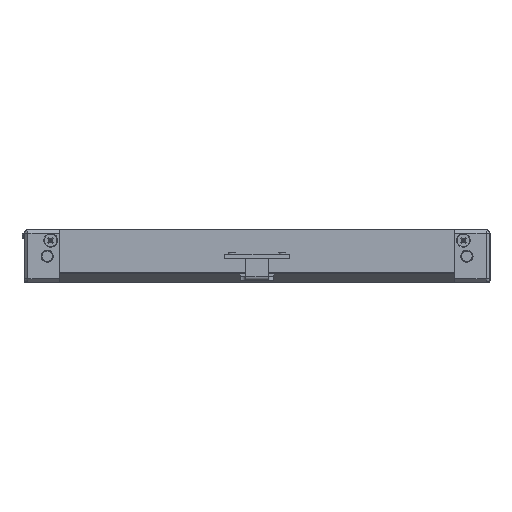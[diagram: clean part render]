
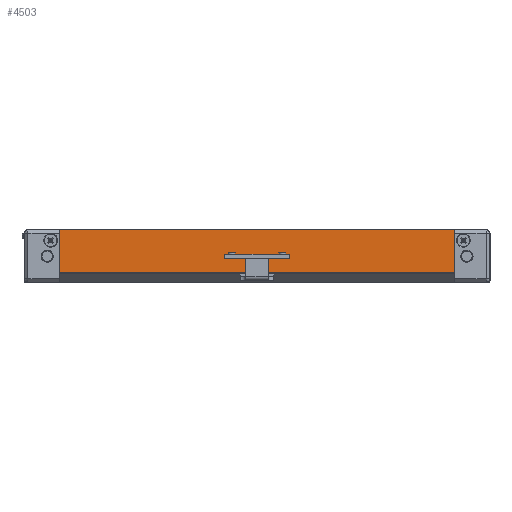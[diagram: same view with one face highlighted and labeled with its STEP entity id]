
A CAD part, top view. The second image highlights one B-rep face of the part: STEP entity #4503.
In plain terms, the highlighted planar face has unit normal (0, 0, 1).
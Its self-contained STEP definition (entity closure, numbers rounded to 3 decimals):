
#743 = PLANE('',#744);
#744 = AXIS2_PLACEMENT_3D('',#745,#746,#747);
#745 = CARTESIAN_POINT('',(-56.5,-7.5,-11.2));
#746 = DIRECTION('',(1.,0.,0.));
#747 = DIRECTION('',(0.,0.,1.));
#1553 = VERTEX_POINT('',#1554);
#1554 = CARTESIAN_POINT('',(-56.5,-4.7,-3.2));
#1580 = EDGE_CURVE('',#1581,#1553,#1583,.T.);
#1581 = VERTEX_POINT('',#1582);
#1582 = CARTESIAN_POINT('',(-56.5,7.5,-3.2));
#1583 = SURFACE_CURVE('',#1584,(#1588,#1595),.PCURVE_S1.);
#1584 = LINE('',#1585,#1586);
#1585 = CARTESIAN_POINT('',(-56.5,10.,-3.2));
#1586 = VECTOR('',#1587,1.);
#1587 = DIRECTION('',(0.,-1.,0.));
#1588 = PCURVE('',#743,#1589);
#1589 = DEFINITIONAL_REPRESENTATION('',(#1590),#1594);
#1590 = LINE('',#1591,#1592);
#1591 = CARTESIAN_POINT('',(8.,-17.5));
#1592 = VECTOR('',#1593,1.);
#1593 = DIRECTION('',(0.,1.));
#1594 = ( GEOMETRIC_REPRESENTATION_CONTEXT(2) 
PARAMETRIC_REPRESENTATION_CONTEXT() REPRESENTATION_CONTEXT('2D SPACE',''
  ) );
#1595 = PCURVE('',#1596,#1601);
#1596 = PLANE('',#1597);
#1597 = AXIS2_PLACEMENT_3D('',#1598,#1599,#1600);
#1598 = CARTESIAN_POINT('',(-66.,-4.7,-3.2));
#1599 = DIRECTION('',(0.,0.,1.));
#1600 = DIRECTION('',(1.,0.,0.));
#1601 = DEFINITIONAL_REPRESENTATION('',(#1602),#1606);
#1602 = LINE('',#1603,#1604);
#1603 = CARTESIAN_POINT('',(9.5,14.7));
#1604 = VECTOR('',#1605,1.);
#1605 = DIRECTION('',(0.,-1.));
#1606 = ( GEOMETRIC_REPRESENTATION_CONTEXT(2) 
PARAMETRIC_REPRESENTATION_CONTEXT() REPRESENTATION_CONTEXT('2D SPACE',''
  ) );
#4503 = ADVANCED_FACE('',(#4504),#1596,.T.);
#4504 = FACE_BOUND('',#4505,.T.);
#4505 = EDGE_LOOP('',(#4506,#4534,#4535,#4562));
#4506 = ORIENTED_EDGE('',*,*,#4507,.F.);
#4507 = EDGE_CURVE('',#1581,#4508,#4510,.T.);
#4508 = VERTEX_POINT('',#4509);
#4509 = CARTESIAN_POINT('',(56.5,7.5,-3.2));
#4510 = SURFACE_CURVE('',#4511,(#4515,#4522),.PCURVE_S1.);
#4511 = LINE('',#4512,#4513);
#4512 = CARTESIAN_POINT('',(-66.,7.5,-3.2));
#4513 = VECTOR('',#4514,1.);
#4514 = DIRECTION('',(1.,0.,0.));
#4515 = PCURVE('',#1596,#4516);
#4516 = DEFINITIONAL_REPRESENTATION('',(#4517),#4521);
#4517 = LINE('',#4518,#4519);
#4518 = CARTESIAN_POINT('',(0.,12.2));
#4519 = VECTOR('',#4520,1.);
#4520 = DIRECTION('',(1.,0.));
#4521 = ( GEOMETRIC_REPRESENTATION_CONTEXT(2) 
PARAMETRIC_REPRESENTATION_CONTEXT() REPRESENTATION_CONTEXT('2D SPACE',''
  ) );
#4522 = PCURVE('',#4523,#4528);
#4523 = PLANE('',#4524);
#4524 = AXIS2_PLACEMENT_3D('',#4525,#4526,#4527);
#4525 = CARTESIAN_POINT('',(-66.,7.5,-3.5));
#4526 = DIRECTION('',(0.,1.,0.));
#4527 = DIRECTION('',(0.,0.,1.));
#4528 = DEFINITIONAL_REPRESENTATION('',(#4529),#4533);
#4529 = LINE('',#4530,#4531);
#4530 = CARTESIAN_POINT('',(0.3,0.));
#4531 = VECTOR('',#4532,1.);
#4532 = DIRECTION('',(0.,1.));
#4533 = ( GEOMETRIC_REPRESENTATION_CONTEXT(2) 
PARAMETRIC_REPRESENTATION_CONTEXT() REPRESENTATION_CONTEXT('2D SPACE',''
  ) );
#4534 = ORIENTED_EDGE('',*,*,#1580,.T.);
#4535 = ORIENTED_EDGE('',*,*,#4536,.T.);
#4536 = EDGE_CURVE('',#1553,#4537,#4539,.T.);
#4537 = VERTEX_POINT('',#4538);
#4538 = CARTESIAN_POINT('',(56.5,-4.7,-3.2));
#4539 = SURFACE_CURVE('',#4540,(#4544,#4551),.PCURVE_S1.);
#4540 = LINE('',#4541,#4542);
#4541 = CARTESIAN_POINT('',(-66.,-4.7,-3.2));
#4542 = VECTOR('',#4543,1.);
#4543 = DIRECTION('',(1.,0.,0.));
#4544 = PCURVE('',#1596,#4545);
#4545 = DEFINITIONAL_REPRESENTATION('',(#4546),#4550);
#4546 = LINE('',#4547,#4548);
#4547 = CARTESIAN_POINT('',(0.,0.));
#4548 = VECTOR('',#4549,1.);
#4549 = DIRECTION('',(1.,0.));
#4550 = ( GEOMETRIC_REPRESENTATION_CONTEXT(2) 
PARAMETRIC_REPRESENTATION_CONTEXT() REPRESENTATION_CONTEXT('2D SPACE',''
  ) );
#4551 = PCURVE('',#4552,#4557);
#4552 = CYLINDRICAL_SURFACE('',#4553,0.3);
#4553 = AXIS2_PLACEMENT_3D('',#4554,#4555,#4556);
#4554 = CARTESIAN_POINT('',(-66.,-4.7,-3.5));
#4555 = DIRECTION('',(1.,0.,0.));
#4556 = DIRECTION('',(0.,0.,1.));
#4557 = DEFINITIONAL_REPRESENTATION('',(#4558),#4561);
#4558 = B_SPLINE_CURVE_WITH_KNOTS('',1,(#4559,#4560),.UNSPECIFIED.,.F.,
  .F.,(2,2),(0.,132.),.PIECEWISE_BEZIER_KNOTS.);
#4559 = CARTESIAN_POINT('',(0.,0.));
#4560 = CARTESIAN_POINT('',(0.,132.));
#4561 = ( GEOMETRIC_REPRESENTATION_CONTEXT(2) 
PARAMETRIC_REPRESENTATION_CONTEXT() REPRESENTATION_CONTEXT('2D SPACE',''
  ) );
#4562 = ORIENTED_EDGE('',*,*,#4563,.F.);
#4563 = EDGE_CURVE('',#4508,#4537,#4564,.T.);
#4564 = SURFACE_CURVE('',#4565,(#4569,#4576),.PCURVE_S1.);
#4565 = LINE('',#4566,#4567);
#4566 = CARTESIAN_POINT('',(56.5,10.,-3.2));
#4567 = VECTOR('',#4568,1.);
#4568 = DIRECTION('',(0.,-1.,-0.));
#4569 = PCURVE('',#1596,#4570);
#4570 = DEFINITIONAL_REPRESENTATION('',(#4571),#4575);
#4571 = LINE('',#4572,#4573);
#4572 = CARTESIAN_POINT('',(122.5,14.7));
#4573 = VECTOR('',#4574,1.);
#4574 = DIRECTION('',(0.,-1.));
#4575 = ( GEOMETRIC_REPRESENTATION_CONTEXT(2) 
PARAMETRIC_REPRESENTATION_CONTEXT() REPRESENTATION_CONTEXT('2D SPACE',''
  ) );
#4576 = PCURVE('',#4577,#4582);
#4577 = PLANE('',#4578);
#4578 = AXIS2_PLACEMENT_3D('',#4579,#4580,#4581);
#4579 = CARTESIAN_POINT('',(56.5,-7.5,-11.2));
#4580 = DIRECTION('',(-1.,-0.,-0.));
#4581 = DIRECTION('',(0.,0.,-1.));
#4582 = DEFINITIONAL_REPRESENTATION('',(#4583),#4587);
#4583 = LINE('',#4584,#4585);
#4584 = CARTESIAN_POINT('',(-8.,-17.5));
#4585 = VECTOR('',#4586,1.);
#4586 = DIRECTION('',(0.,1.));
#4587 = ( GEOMETRIC_REPRESENTATION_CONTEXT(2) 
PARAMETRIC_REPRESENTATION_CONTEXT() REPRESENTATION_CONTEXT('2D SPACE',''
  ) );
